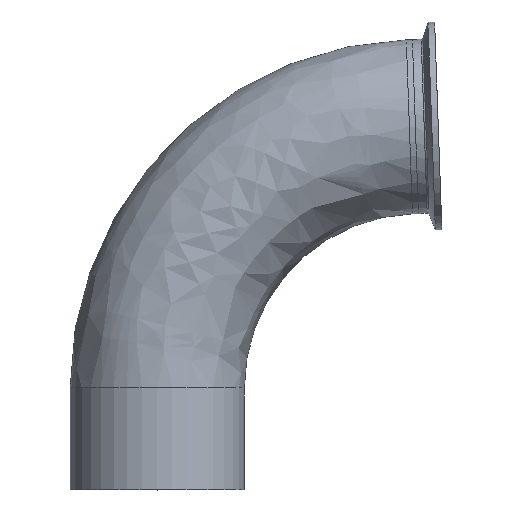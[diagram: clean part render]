
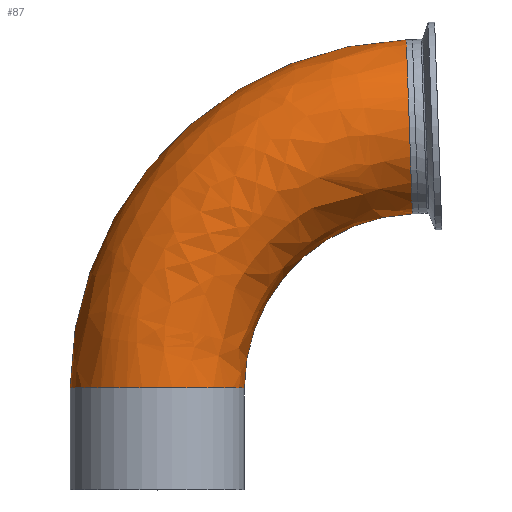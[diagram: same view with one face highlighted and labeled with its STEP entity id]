
A CAD part, top view. The second image highlights one B-rep face of the part: STEP entity #87.
In plain terms, the highlighted free-form (B-spline) face has degree [3, 3] with [4, 4] control points.
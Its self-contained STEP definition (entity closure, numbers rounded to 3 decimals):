
#64 = CARTESIAN_POINT ( 'NONE',  ( 38.1, 44.589, 76.2 ) ) ;
#87 = ADVANCED_FACE ( 'NONE', ( #1128 ), #1589, .T. ) ;
#111 = CARTESIAN_POINT ( 'NONE',  ( 22.212, 193.866, 0. ) ) ;
#139 = EDGE_LOOP ( 'NONE', ( #987, #417, #700, #1804 ) ) ;
#158 = CARTESIAN_POINT ( 'NONE',  ( 110.311, 158.819, 0. ) ) ;
#299 = CARTESIAN_POINT ( 'NONE',  ( 68.256, 119.227, 0. ) ) ;
#303 = AXIS2_PLACEMENT_3D ( 'NONE', #350, #382, #1781 ) ;
#320 = CARTESIAN_POINT ( 'NONE',  ( 111.641, 120.742, 0. ) ) ;
#332 = EDGE_CURVE ( 'NONE', #699, #903, #653, .T. ) ;
#350 = CARTESIAN_POINT ( 'NONE',  ( 114.3, 44.589, 0. ) ) ;
#354 = CARTESIAN_POINT ( 'NONE',  ( 38.1, 44.589, 0. ) ) ;
#382 = DIRECTION ( 'NONE',  ( 0., 0., -1. ) ) ;
#403 = VERTEX_POINT ( 'NONE', #1545 ) ;
#417 = ORIENTED_EDGE ( 'NONE', *, *, #332, .T. ) ;
#469 = AXIS2_PLACEMENT_3D ( 'NONE', #833, #1280, #644 ) ;
#519 = DIRECTION ( 'NONE',  ( -0.035, 0.999, 0. ) ) ;
#572 = AXIS2_PLACEMENT_3D ( 'NONE', #158, #1739, #519 ) ;
#581 = CARTESIAN_POINT ( 'NONE',  ( 108.981, 196.896, 0. ) ) ;
#644 = DIRECTION ( 'NONE',  ( -1., 0., 0. ) ) ;
#653 = CIRCLE ( 'NONE', #303, 76.2 ) ;
#665 = VERTEX_POINT ( 'NONE', #581 ) ;
#699 = VERTEX_POINT ( 'NONE', #1808 ) ;
#700 = ORIENTED_EDGE ( 'NONE', *, *, #1789, .T. ) ;
#829 = EDGE_CURVE ( 'NONE', #403, #699, #1677, .T. ) ;
#833 = CARTESIAN_POINT ( 'NONE',  ( 0., 44.589, 0. ) ) ;
#847 = CARTESIAN_POINT ( 'NONE',  ( 114.3, 44.589, 0. ) ) ;
#903 = VERTEX_POINT ( 'NONE', #1526 ) ;
#927 = EDGE_CURVE ( 'NONE', #403, #665, #1846, .T. ) ;
#987 = ORIENTED_EDGE ( 'NONE', *, *, #829, .T. ) ;
#1011 = CIRCLE ( 'NONE', #572, 38.1 ) ;
#1029 = CARTESIAN_POINT ( 'NONE',  ( 38.1, 88., 0. ) ) ;
#1087 = CARTESIAN_POINT ( 'NONE',  ( -38.1, 44.589, 0. ) ) ;
#1128 = FACE_OUTER_BOUND ( 'NONE', #139, .T. ) ;
#1154 = CARTESIAN_POINT ( 'NONE',  ( 38.1, 88., 76.2 ) ) ;
#1172 = CARTESIAN_POINT ( 'NONE',  ( -38.1, 131.411, 0. ) ) ;
#1199 = CARTESIAN_POINT ( 'NONE',  ( 108.981, 196.896, 76.2 ) ) ;
#1248 = DIRECTION ( 'NONE',  ( 0., 0., -1. ) ) ;
#1280 = DIRECTION ( 'NONE',  ( 0., 1., 0. ) ) ;
#1328 = CARTESIAN_POINT ( 'NONE',  ( 111.641, 120.742, 76.2 ) ) ;
#1368 = DIRECTION ( 'NONE',  ( -1., 0., 0. ) ) ;
#1526 = CARTESIAN_POINT ( 'NONE',  ( 111.641, 120.742, 0. ) ) ;
#1545 = CARTESIAN_POINT ( 'NONE',  ( -38.1, 44.589, 0. ) ) ;
#1589 =( BOUNDED_SURFACE ( )  B_SPLINE_SURFACE ( 3, 3, ( 
 ( #1087, #1172, #111, #1777 ),
 ( #1601, #1743, #1717, #1199 ),
 ( #64, #1154, #1811, #1328 ),
 ( #354, #1029, #299, #320 ) ),
 .UNSPECIFIED., .F., .F., .F. ) 
 B_SPLINE_SURFACE_WITH_KNOTS ( ( 4, 4 ),
 ( 4, 4 ),
 ( 0., 1. ),
 ( 0., 1. ),
 .UNSPECIFIED. ) 
 GEOMETRIC_REPRESENTATION_ITEM ( )  RATIONAL_B_SPLINE_SURFACE ( (
 ( 1., 0.813, 0.813, 1.),
 ( 0.333, 0.271, 0.271, 0.333),
 ( 0.333, 0.271, 0.271, 0.333),
 ( 1., 0.813, 0.813, 1.) ) ) 
 REPRESENTATION_ITEM ( '' )  SURFACE ( )  );
#1601 = CARTESIAN_POINT ( 'NONE',  ( -38.1, 44.589, 76.2 ) ) ;
#1677 = CIRCLE ( 'NONE', #469, 38.1 ) ;
#1693 = AXIS2_PLACEMENT_3D ( 'NONE', #847, #1248, #1368 ) ;
#1717 = CARTESIAN_POINT ( 'NONE',  ( 22.212, 193.866, 76.2 ) ) ;
#1739 = DIRECTION ( 'NONE',  ( -0.999, -0.035, 0. ) ) ;
#1743 = CARTESIAN_POINT ( 'NONE',  ( -38.1, 131.411, 76.2 ) ) ;
#1777 = CARTESIAN_POINT ( 'NONE',  ( 108.981, 196.896, 0. ) ) ;
#1781 = DIRECTION ( 'NONE',  ( -1., 0., 0. ) ) ;
#1789 = EDGE_CURVE ( 'NONE', #903, #665, #1011, .T. ) ;
#1804 = ORIENTED_EDGE ( 'NONE', *, *, #927, .F. ) ;
#1808 = CARTESIAN_POINT ( 'NONE',  ( 38.1, 44.589, 0. ) ) ;
#1811 = CARTESIAN_POINT ( 'NONE',  ( 68.256, 119.227, 76.2 ) ) ;
#1846 = CIRCLE ( 'NONE', #1693, 152.4 ) ;
